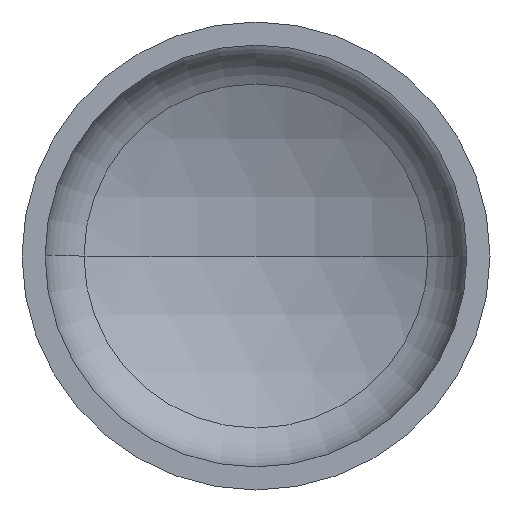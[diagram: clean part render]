
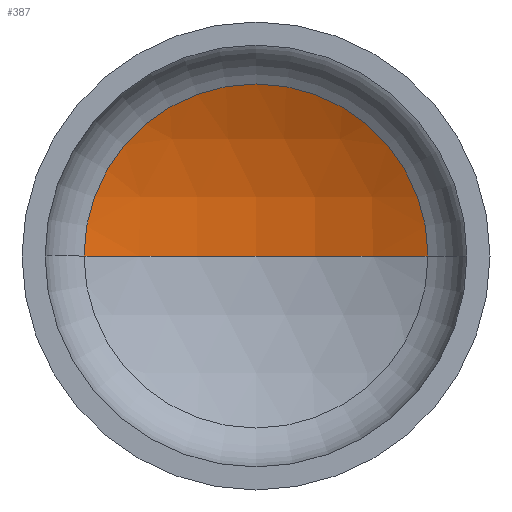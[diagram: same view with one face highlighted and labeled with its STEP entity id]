
A CAD part, front view. The second image highlights one B-rep face of the part: STEP entity #387.
In plain terms, the highlighted spherical face has radius 1040 mm.
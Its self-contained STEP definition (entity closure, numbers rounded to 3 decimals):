
#10 = AXIS2_PLACEMENT_3D ( 'NONE', #249, #82, #279 ) ;
#13 = AXIS2_PLACEMENT_3D ( 'NONE', #109, #310, #138 ) ;
#14 = CIRCLE ( 'NONE', #406, 1040. ) ;
#60 = CARTESIAN_POINT ( 'NONE',  ( 0., -626.059, 0. ) ) ;
#64 = CIRCLE ( 'NONE', #10, 1040. ) ;
#77 = VERTEX_POINT ( 'NONE', #275 ) ;
#82 = DIRECTION ( 'NONE',  ( 0., 0., -1. ) ) ;
#86 = DIRECTION ( 'NONE',  ( 0., 0., 1. ) ) ;
#87 = DIRECTION ( 'NONE',  ( -1., 0., 0. ) ) ;
#93 = ORIENTED_EDGE ( 'NONE', *, *, #315, .T. ) ;
#109 = CARTESIAN_POINT ( 'NONE',  ( 0., 297.633, 0. ) ) ;
#127 = AXIS2_PLACEMENT_3D ( 'NONE', #60, #373, #87 ) ;
#138 = DIRECTION ( 'NONE',  ( 1., 0., 0. ) ) ;
#188 = FACE_OUTER_BOUND ( 'NONE', #360, .T. ) ;
#217 = VERTEX_POINT ( 'NONE', #358 ) ;
#249 = CARTESIAN_POINT ( 'NONE',  ( 0., -626.059, 0. ) ) ;
#255 = CARTESIAN_POINT ( 'NONE',  ( 0., -626.059, 0. ) ) ;
#275 = CARTESIAN_POINT ( 'NONE',  ( -477.905, 297.633, 0. ) ) ;
#277 = ORIENTED_EDGE ( 'NONE', *, *, #379, .F. ) ;
#279 = DIRECTION ( 'NONE',  ( -1., 0., 0. ) ) ;
#280 = CARTESIAN_POINT ( 'NONE',  ( 477.905, 297.633, 0. ) ) ;
#284 = DIRECTION ( 'NONE',  ( 1., 0., 0. ) ) ;
#309 = EDGE_CURVE ( 'NONE', #337, #77, #359, .T. ) ;
#310 = DIRECTION ( 'NONE',  ( 0., -1., 0. ) ) ;
#315 = EDGE_CURVE ( 'NONE', #217, #337, #64, .T. ) ;
#337 = VERTEX_POINT ( 'NONE', #280 ) ;
#358 = CARTESIAN_POINT ( 'NONE',  ( 0., 413.941, 0. ) ) ;
#359 = CIRCLE ( 'NONE', #13, 477.905 ) ;
#360 = EDGE_LOOP ( 'NONE', ( #277, #93, #408 ) ) ;
#373 = DIRECTION ( 'NONE',  ( 0., 0., -1. ) ) ;
#379 = EDGE_CURVE ( 'NONE', #217, #77, #14, .T. ) ;
#387 = ADVANCED_FACE ( 'NONE', ( #188 ), #395, .F. ) ;
#395 = SPHERICAL_SURFACE ( 'NONE', #127, 1040. ) ;
#406 = AXIS2_PLACEMENT_3D ( 'NONE', #255, #86, #284 ) ;
#408 = ORIENTED_EDGE ( 'NONE', *, *, #309, .T. ) ;
